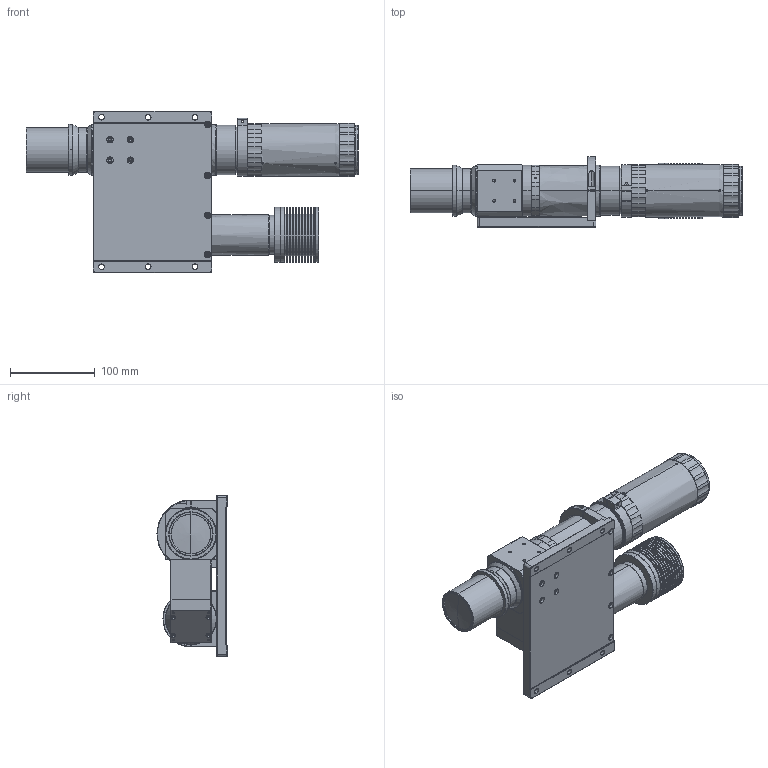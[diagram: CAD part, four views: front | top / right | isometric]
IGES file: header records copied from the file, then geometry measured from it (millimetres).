
Start section: SolidWorks IGES file using analytic representation for surfaces
Bounding box: 391.01 x 82.53 x 190 mm (x, y, z)
Surface area: 274518.8 mm2 (no closed solid volume)
Topology: 0 solids, 0 shells, 1523 faces, 22648 edges, 22594 vertices
Faces by surface type: revolution 1027, bspline 496
